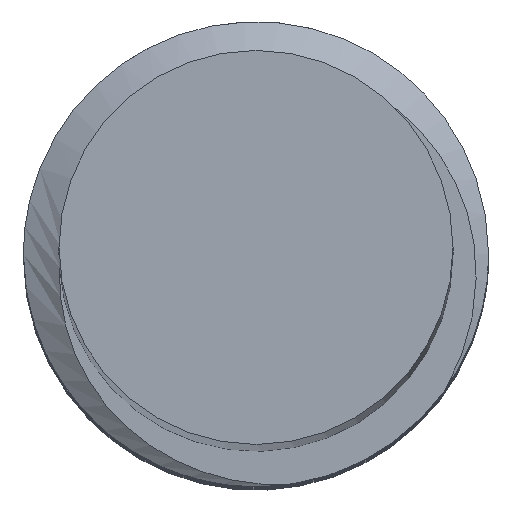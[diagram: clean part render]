
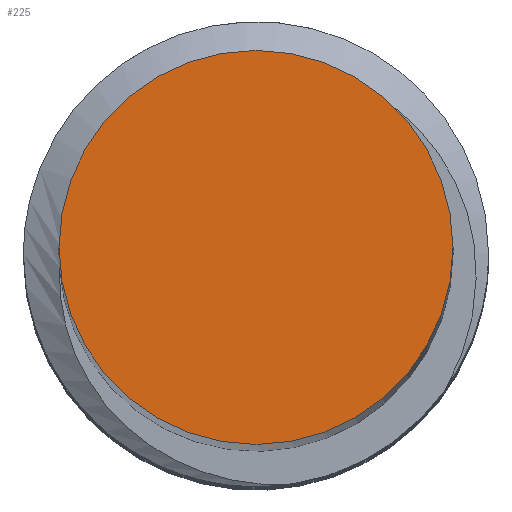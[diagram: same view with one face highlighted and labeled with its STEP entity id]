
A CAD part, top view. The second image highlights one B-rep face of the part: STEP entity #225.
In plain terms, the highlighted planar face has unit normal (0, 0, 1).
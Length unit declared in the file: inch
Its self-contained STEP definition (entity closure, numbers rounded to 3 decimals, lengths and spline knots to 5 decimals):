
#225 = ADVANCED_FACE ( 'NONE', ( #318 ), #317, .T. ) ;
#226 = EDGE_LOOP ( 'NONE', ( #230, #231 ) ) ;
#230 = ORIENTED_EDGE ( 'NONE', *, *, #394, .T. ) ;
#231 = ORIENTED_EDGE ( 'NONE', *, *, #5104, .T. ) ;
#313 = DIRECTION ( 'NONE',  ( 1., 0., 0. ) ) ;
#314 = DIRECTION ( 'NONE',  ( 0., 0., 1. ) ) ;
#315 = AXIS2_PLACEMENT_3D ( 'NONE', #316, #314, #313 ) ;
#316 = CARTESIAN_POINT ( 'NONE',  ( 0., 0., 1.5 ) ) ;
#317 = PLANE ( 'NONE',  #315 ) ;
#318 = FACE_OUTER_BOUND ( 'NONE', #226, .T. ) ;
#394 = EDGE_CURVE ( 'NONE', #5106, #5105, #2398, .T. ) ;
#2394 = DIRECTION ( 'NONE',  ( 1., 0., 0. ) ) ;
#2395 = DIRECTION ( 'NONE',  ( 0., 0., 1. ) ) ;
#2396 = CARTESIAN_POINT ( 'NONE',  ( 0., 0., 1.5 ) ) ;
#2397 = AXIS2_PLACEMENT_3D ( 'NONE', #2396, #2395, #2394 ) ;
#2398 = CIRCLE ( 'NONE', #2397, 0.05 ) ;
#4629 = CARTESIAN_POINT ( 'NONE',  ( -0.05, 0., 1.5 ) ) ;
#4630 = CARTESIAN_POINT ( 'NONE',  ( 0.05, 0., 1.5 ) ) ;
#4631 = DIRECTION ( 'NONE',  ( 1., 0., 0. ) ) ;
#4691 = DIRECTION ( 'NONE',  ( 0., 0., 1. ) ) ;
#4692 = CARTESIAN_POINT ( 'NONE',  ( 0., 0., 1.5 ) ) ;
#4693 = AXIS2_PLACEMENT_3D ( 'NONE', #4692, #4691, #4631 ) ;
#4694 = CIRCLE ( 'NONE', #4693, 0.05 ) ;
#5104 = EDGE_CURVE ( 'NONE', #5105, #5106, #4694, .T. ) ;
#5105 = VERTEX_POINT ( 'NONE', #4630 ) ;
#5106 = VERTEX_POINT ( 'NONE', #4629 ) ;
